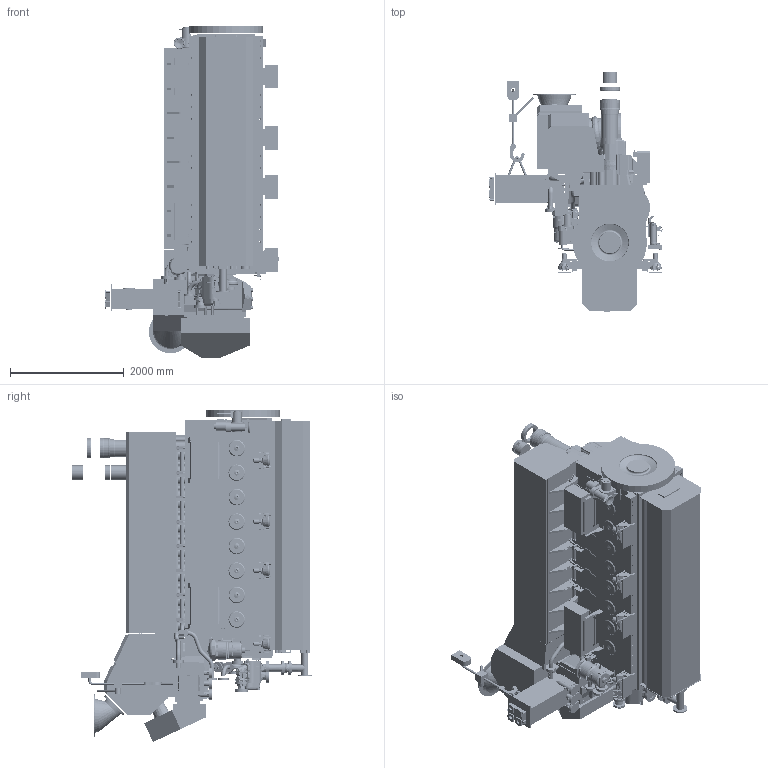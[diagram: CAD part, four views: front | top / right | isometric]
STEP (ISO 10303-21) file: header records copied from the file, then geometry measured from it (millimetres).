
FILE_DESCRIPTION((''),'2;1');
FILE_NAME('8M25E_CFWS_STP_ASM','2015-11-17T',('frickbd'),('Caterpillar Motoren GmbH & Co.KG'),'PRO/ENGINEER BY PARAMETRIC TECHNOLOGY CORPORATION, 2014200','PRO/ENGINEER BY PARAMETRIC TECHNOLOGY CORPORATION, 2014200','');
FILE_SCHEMA(('CONFIG_CONTROL_DESIGN'));
Products named in the file (6): 8M25E_CFWS_STP_REMOV_SPACE_P01; 8M25E_CFWS_STP_RESIL_MOUNT_P01; 8M25E_CFWS_STP_DRY_SUMP_P01; 8M25E_CFWS_STP_ENGINE_P01; 8M25E_CFWS_STP_WET_SUMP_P01; 8M25E_CFWS_STP_ASM
Assembly tree (5 placements, depth 2):
  8M25E_CFWS_STP_ASM
    8M25E_CFWS_STP_REMOV_SPACE_P01
    8M25E_CFWS_STP_RESIL_MOUNT_P01
    8M25E_CFWS_STP_DRY_SUMP_P01
    8M25E_CFWS_STP_ENGINE_P01
    8M25E_CFWS_STP_WET_SUMP_P01
Bounding box: 3067.97 x 4216 x 5833.95 mm (x, y, z)
Surface area: 147468239.8 mm2 (no closed solid volume)
Topology: 0 solids, 407 shells, 5239 faces, 19989 edges, 14843 vertices
Faces by surface type: plane 2707, cylinder 1830, bspline 296, cone 213, torus 161, sphere 28, extrusion 4
Entity records: 274151 total; most frequent: CARTESIAN_POINT 86900, DIRECTION 34124, ORIENTED_EDGE 30577, EDGE_CURVE 19963, VERTEX_POINT 14845, VECTOR 11834, LINE 11830, AXIS2_PLACEMENT_3D 11145
